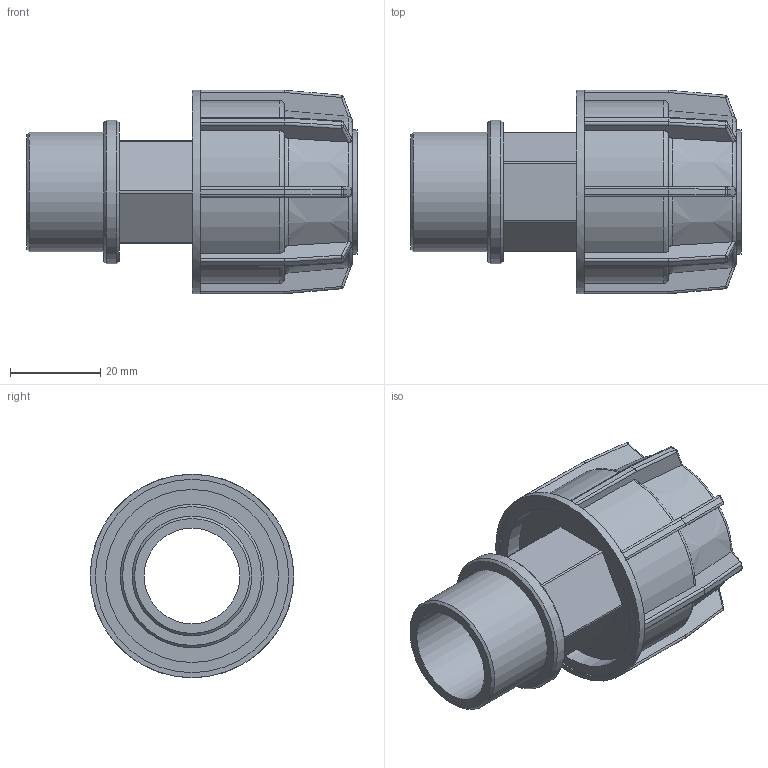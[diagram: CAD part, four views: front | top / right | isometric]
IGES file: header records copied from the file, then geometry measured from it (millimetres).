
Global section: file name: 040207025007.ipt; native system: Autodesk Inventor 2015; preprocessor: unknown; author: KIM; date: 20180409.130628; units: millimetre
Bounding box: 73 x 45 x 45 mm (x, y, z)
Volume: 29938.6 mm3; surface area: 17916.5 mm2
Topology: 1 solids, 1 shells, 283 faces, 678 edges, 396 vertices
Faces by surface type: plane 142, cylinder 76, sphere 32, revolution 22, cone 11
Full cylindrical faces by diameter (mm): 26.441 x1, 27.5 x1, 31.729 x1, 45 x1
